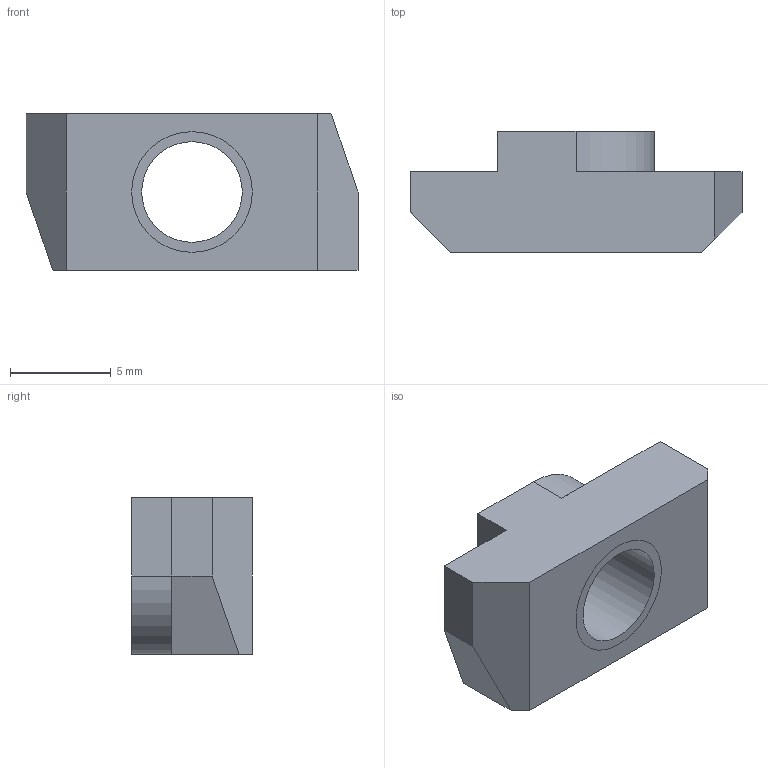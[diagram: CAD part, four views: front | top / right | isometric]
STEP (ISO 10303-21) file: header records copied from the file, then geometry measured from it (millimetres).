
FILE_DESCRIPTION((''),'2;1');
FILE_NAME('DAM0630','2002-12-27T',('Lipro doo'),('Lipro d.o.o.'),'PRO/ENGINEER BY PARAMETRIC TECHNOLOGY CORPORATION, 2001150','PRO/ENGINEER BY PARAMETRIC TECHNOLOGY CORPORATION, 2001150','');
FILE_SCHEMA(('CONFIG_CONTROL_DESIGN'));
Length unit declared in the file: millimetre
Products named in the file (1): DAM0630
Bounding box: 16.5 x 6 x 7.8 mm (x, y, z)
Volume: 458.3 mm3; surface area: 628.3 mm2
Topology: 1 solids, 2 shells, 22 faces, 58 edges, 38 vertices
Faces by surface type: plane 14, cylinder 6, cone 2
Entity records: 728 total; most frequent: CARTESIAN_POINT 119, DIRECTION 118, ORIENTED_EDGE 112, EDGE_CURVE 58, VECTOR 44, LINE 44, VERTEX_POINT 38, AXIS2_PLACEMENT_3D 37
